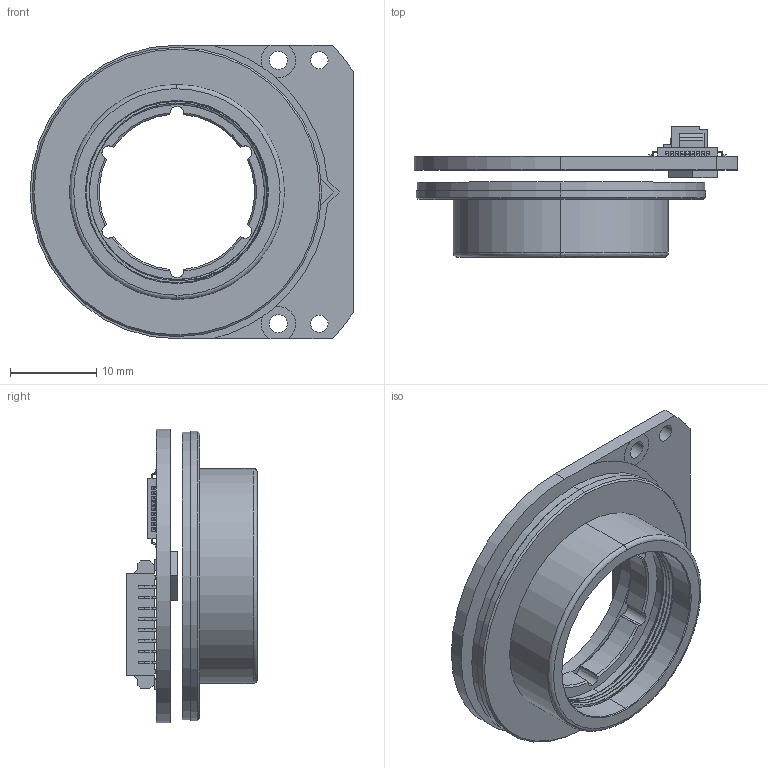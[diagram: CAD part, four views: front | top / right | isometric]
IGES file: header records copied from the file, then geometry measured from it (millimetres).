
Start section: SolidWorks IGES file using analytic representation for surfaces
Global section: file name: C:\Users\Administrator\Desktop\埻唳蜊\18\eCoder18.IGS,15; native system: HSolidWorks 2021; preprocessor: SolidWorks 2021; author: ZERO; date: 221228.171806; units: millimetre
Bounding box: 37.5 x 15.15 x 34 mm (x, y, z)
Volume: 3635.8 mm3; surface area: 6140.2 mm2
Topology: 6 solids, 6 shells, 1005 faces, 2612 edges, 1676 vertices
Faces by surface type: plane 769, revolution 231, bspline 5
